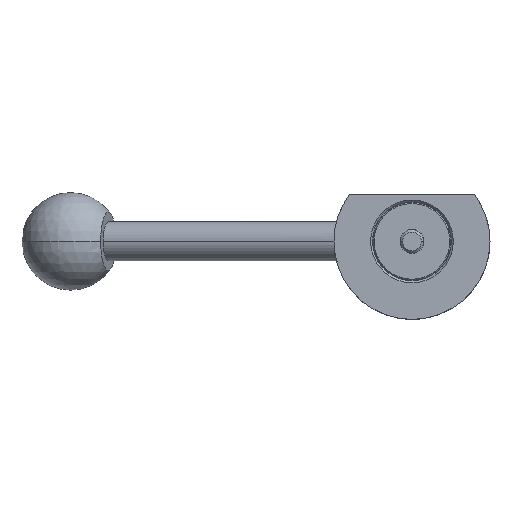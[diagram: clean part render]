
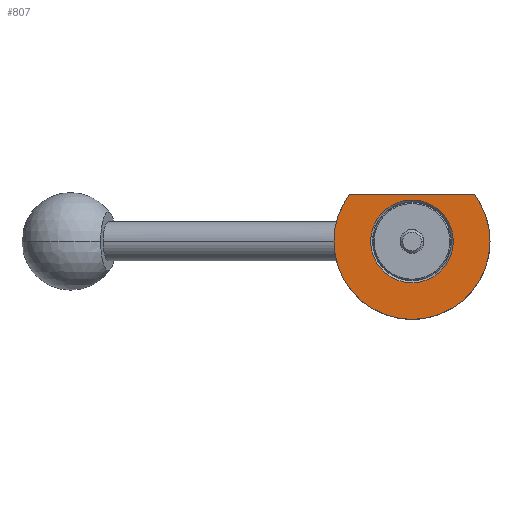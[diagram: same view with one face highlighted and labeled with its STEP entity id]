
A CAD part, front view. The second image highlights one B-rep face of the part: STEP entity #807.
In plain terms, the highlighted planar face has unit normal (0, -1, 0).
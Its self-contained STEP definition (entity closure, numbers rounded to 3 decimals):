
#45 = VERTEX_POINT ( 'NONE', #247 ) ;
#51 = AXIS2_PLACEMENT_3D ( 'NONE', #1847, #87, #414 ) ;
#76 = CARTESIAN_POINT ( 'NONE',  ( -20., -10., 0. ) ) ;
#78 = DIRECTION ( 'NONE',  ( 0., 1., 0. ) ) ;
#80 = CIRCLE ( 'NONE', #1056, 20. ) ;
#87 = DIRECTION ( 'NONE',  ( 0., 1., 0. ) ) ;
#94 = EDGE_CURVE ( 'NONE', #1647, #45, #1159, .T. ) ;
#115 = CARTESIAN_POINT ( 'NONE',  ( 0., -10., 0. ) ) ;
#151 = VERTEX_POINT ( 'NONE', #2004 ) ;
#153 = CARTESIAN_POINT ( 'NONE',  ( 0., -10., 0. ) ) ;
#177 = PLANE ( 'NONE',  #2017 ) ;
#219 = AXIS2_PLACEMENT_3D ( 'NONE', #115, #78, #725 ) ;
#247 = CARTESIAN_POINT ( 'NONE',  ( -16.001, -10., 11.999 ) ) ;
#262 = ORIENTED_EDGE ( 'NONE', *, *, #715, .T. ) ;
#279 = CIRCLE ( 'NONE', #51, 20. ) ;
#332 = FACE_OUTER_BOUND ( 'NONE', #1444, .T. ) ;
#349 = VERTEX_POINT ( 'NONE', #833 ) ;
#414 = DIRECTION ( 'NONE',  ( -1., 0., 0. ) ) ;
#453 = CARTESIAN_POINT ( 'NONE',  ( -10.6, -10., 0. ) ) ;
#494 = EDGE_CURVE ( 'NONE', #840, #1647, #279, .T. ) ;
#511 = DIRECTION ( 'NONE',  ( 0., 1., 0. ) ) ;
#533 = DIRECTION ( 'NONE',  ( -1., 0., 0. ) ) ;
#584 = CIRCLE ( 'NONE', #219, 10.6 ) ;
#629 = DIRECTION ( 'NONE',  ( -1., 0., 0. ) ) ;
#657 = FACE_BOUND ( 'NONE', #1846, .T. ) ;
#681 = DIRECTION ( 'NONE',  ( 1., 0., 0. ) ) ;
#715 = EDGE_CURVE ( 'NONE', #349, #45, #937, .T. ) ;
#725 = DIRECTION ( 'NONE',  ( -1., 0., 0. ) ) ;
#766 = EDGE_CURVE ( 'NONE', #349, #840, #80, .T. ) ;
#779 = DIRECTION ( 'NONE',  ( -1., 0., 0. ) ) ;
#803 = DIRECTION ( 'NONE',  ( 0., 1., 0. ) ) ;
#807 = ADVANCED_FACE ( 'NONE', ( #657, #332 ), #177, .T. ) ;
#833 = CARTESIAN_POINT ( 'NONE',  ( 16.001, -10., 11.999 ) ) ;
#840 = VERTEX_POINT ( 'NONE', #1491 ) ;
#843 = CARTESIAN_POINT ( 'NONE',  ( 0., -10., 0. ) ) ;
#853 = CARTESIAN_POINT ( 'NONE',  ( -10.6, -10., 0. ) ) ;
#885 = CARTESIAN_POINT ( 'NONE',  ( 0., -10., 0. ) ) ;
#937 = LINE ( 'NONE', #1571, #1023 ) ;
#956 = ORIENTED_EDGE ( 'NONE', *, *, #1153, .T. ) ;
#960 = AXIS2_PLACEMENT_3D ( 'NONE', #153, #803, #629 ) ;
#1023 = VECTOR ( 'NONE', #779, 1000. ) ;
#1026 = ORIENTED_EDGE ( 'NONE', *, *, #494, .F. ) ;
#1056 = AXIS2_PLACEMENT_3D ( 'NONE', #843, #511, #533 ) ;
#1099 = ORIENTED_EDGE ( 'NONE', *, *, #1559, .T. ) ;
#1153 = EDGE_CURVE ( 'NONE', #1794, #151, #584, .T. ) ;
#1159 = CIRCLE ( 'NONE', #1487, 20. ) ;
#1172 = DIRECTION ( 'NONE',  ( 0., -1., 0. ) ) ;
#1337 = ORIENTED_EDGE ( 'NONE', *, *, #766, .F. ) ;
#1444 = EDGE_LOOP ( 'NONE', ( #1337, #262, #1945, #1026 ) ) ;
#1487 = AXIS2_PLACEMENT_3D ( 'NONE', #885, #1842, #1859 ) ;
#1491 = CARTESIAN_POINT ( 'NONE',  ( 20., -10., 0. ) ) ;
#1527 = CIRCLE ( 'NONE', #960, 10.6 ) ;
#1559 = EDGE_CURVE ( 'NONE', #151, #1794, #1527, .T. ) ;
#1571 = CARTESIAN_POINT ( 'NONE',  ( -10.6, -10., 11.999 ) ) ;
#1647 = VERTEX_POINT ( 'NONE', #76 ) ;
#1794 = VERTEX_POINT ( 'NONE', #453 ) ;
#1842 = DIRECTION ( 'NONE',  ( 0., 1., 0. ) ) ;
#1846 = EDGE_LOOP ( 'NONE', ( #1099, #956 ) ) ;
#1847 = CARTESIAN_POINT ( 'NONE',  ( 0., -10., 0. ) ) ;
#1859 = DIRECTION ( 'NONE',  ( -1., 0., 0. ) ) ;
#1945 = ORIENTED_EDGE ( 'NONE', *, *, #94, .F. ) ;
#2004 = CARTESIAN_POINT ( 'NONE',  ( 10.6, -10., 0. ) ) ;
#2017 = AXIS2_PLACEMENT_3D ( 'NONE', #853, #1172, #681 ) ;
